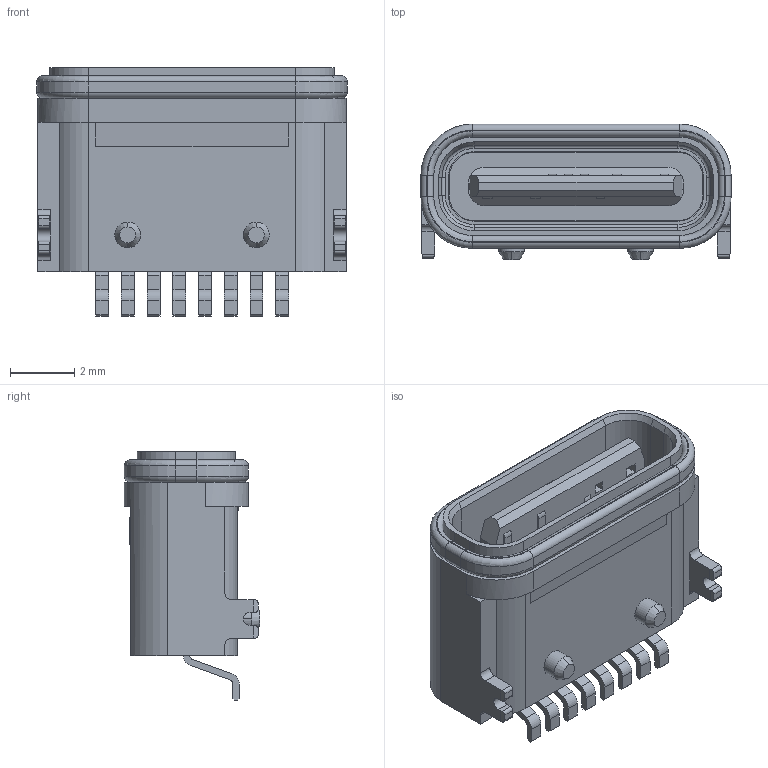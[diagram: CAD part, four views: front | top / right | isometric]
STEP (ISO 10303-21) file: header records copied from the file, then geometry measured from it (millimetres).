
FILE_DESCRIPTION (( 'STEP AP203' ), '1' );
FILE_NAME ('U5334-08PN6.35LF.STEP', '2026-09-01T03:12:28', ( '' ), ( '' ), 'SwSTEP 2.0', 'SolidWorks 2024', '' );
FILE_SCHEMA (( 'CONFIG_CONTROL_DESIGN' ));
Length unit declared in the file: millimetre
Products named in the file (1): U5334-08PN6.35LF
Bounding box: 9.65 x 4.21 x 7.73 mm (x, y, z)
Volume: 129.3 mm3; surface area: 504.8 mm2
Topology: 2 solids, 3 shells, 802 faces, 2117 edges, 1388 vertices
Faces by surface type: plane 601, cylinder 136, bspline 25, torus 20, cone 20
Entity records: 26076 total; most frequent: CARTESIAN_POINT 6165, ORIENTED_EDGE 4234, DIRECTION 3860, EDGE_CURVE 2117, VECTOR 1718, LINE 1718, VERTEX_POINT 1388, AXIS2_PLACEMENT_3D 1071
